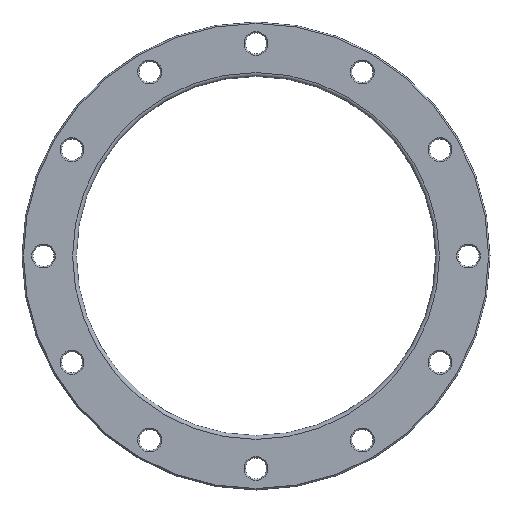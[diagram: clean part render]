
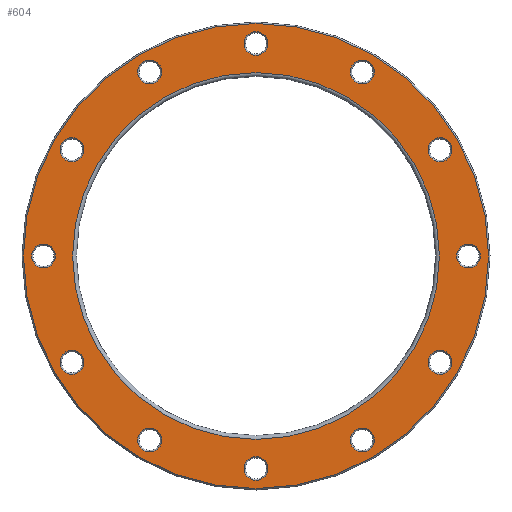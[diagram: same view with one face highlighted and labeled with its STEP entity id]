
A CAD part, front view. The second image highlights one B-rep face of the part: STEP entity #604.
In plain terms, the highlighted planar face has unit normal (0, -1, 0).
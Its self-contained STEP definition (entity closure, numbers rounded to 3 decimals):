
#23=PLANE('',#712);
#134=ORIENTED_EDGE('',*,*,#213,.T.);
#135=ORIENTED_EDGE('',*,*,#214,.T.);
#136=ORIENTED_EDGE('',*,*,#164,.T.);
#137=ORIENTED_EDGE('',*,*,#168,.T.);
#138=ORIENTED_EDGE('',*,*,#172,.T.);
#139=ORIENTED_EDGE('',*,*,#176,.T.);
#140=ORIENTED_EDGE('',*,*,#180,.T.);
#141=ORIENTED_EDGE('',*,*,#184,.T.);
#142=ORIENTED_EDGE('',*,*,#188,.T.);
#143=ORIENTED_EDGE('',*,*,#192,.T.);
#144=ORIENTED_EDGE('',*,*,#196,.T.);
#145=ORIENTED_EDGE('',*,*,#200,.T.);
#146=ORIENTED_EDGE('',*,*,#204,.T.);
#147=ORIENTED_EDGE('',*,*,#215,.T.);
#164=EDGE_CURVE('',#220,#220,#276,.T.);
#168=EDGE_CURVE('',#224,#224,#280,.T.);
#172=EDGE_CURVE('',#228,#228,#284,.T.);
#176=EDGE_CURVE('',#232,#232,#288,.T.);
#180=EDGE_CURVE('',#236,#236,#292,.T.);
#184=EDGE_CURVE('',#240,#240,#296,.T.);
#188=EDGE_CURVE('',#244,#244,#300,.T.);
#192=EDGE_CURVE('',#248,#248,#304,.T.);
#196=EDGE_CURVE('',#252,#252,#308,.T.);
#200=EDGE_CURVE('',#256,#256,#312,.T.);
#204=EDGE_CURVE('',#260,#260,#316,.T.);
#213=EDGE_CURVE('',#269,#269,#325,.F.);
#214=EDGE_CURVE('',#270,#270,#326,.T.);
#215=EDGE_CURVE('',#271,#271,#327,.T.);
#220=VERTEX_POINT('',#935);
#224=VERTEX_POINT('',#946);
#228=VERTEX_POINT('',#957);
#232=VERTEX_POINT('',#968);
#236=VERTEX_POINT('',#979);
#240=VERTEX_POINT('',#990);
#244=VERTEX_POINT('',#1001);
#248=VERTEX_POINT('',#1012);
#252=VERTEX_POINT('',#1023);
#256=VERTEX_POINT('',#1034);
#260=VERTEX_POINT('',#1045);
#269=VERTEX_POINT('',#1068);
#270=VERTEX_POINT('',#1070);
#271=VERTEX_POINT('',#1072);
#276=CIRCLE('',#629,12.5);
#280=CIRCLE('',#636,12.5);
#284=CIRCLE('',#643,12.5);
#288=CIRCLE('',#650,12.5);
#292=CIRCLE('',#657,12.5);
#296=CIRCLE('',#664,12.5);
#300=CIRCLE('',#671,12.5);
#304=CIRCLE('',#678,12.5);
#308=CIRCLE('',#685,12.5);
#312=CIRCLE('',#692,12.5);
#316=CIRCLE('',#699,12.5);
#325=CIRCLE('',#713,243.5);
#326=CIRCLE('',#714,192.);
#327=CIRCLE('',#715,12.5);
#414=EDGE_LOOP('',(#134));
#415=EDGE_LOOP('',(#135));
#416=EDGE_LOOP('',(#136));
#417=EDGE_LOOP('',(#137));
#418=EDGE_LOOP('',(#138));
#419=EDGE_LOOP('',(#139));
#420=EDGE_LOOP('',(#140));
#421=EDGE_LOOP('',(#141));
#422=EDGE_LOOP('',(#142));
#423=EDGE_LOOP('',(#143));
#424=EDGE_LOOP('',(#144));
#425=EDGE_LOOP('',(#145));
#426=EDGE_LOOP('',(#146));
#427=EDGE_LOOP('',(#147));
#526=FACE_BOUND('',#414,.T.);
#527=FACE_BOUND('',#415,.T.);
#528=FACE_BOUND('',#416,.T.);
#529=FACE_BOUND('',#417,.T.);
#530=FACE_BOUND('',#418,.T.);
#531=FACE_BOUND('',#419,.T.);
#532=FACE_BOUND('',#420,.T.);
#533=FACE_BOUND('',#421,.T.);
#534=FACE_BOUND('',#422,.T.);
#535=FACE_BOUND('',#423,.T.);
#536=FACE_BOUND('',#424,.T.);
#537=FACE_BOUND('',#425,.T.);
#538=FACE_BOUND('',#426,.T.);
#539=FACE_BOUND('',#427,.T.);
#604=ADVANCED_FACE('',(#526,#527,#528,#529,#530,#531,#532,#533,#534,#535,
#536,#537,#538,#539),#23,.F.);
#629=AXIS2_PLACEMENT_3D('',#934,#735,#736);
#636=AXIS2_PLACEMENT_3D('',#945,#749,#750);
#643=AXIS2_PLACEMENT_3D('',#956,#763,#764);
#650=AXIS2_PLACEMENT_3D('',#967,#777,#778);
#657=AXIS2_PLACEMENT_3D('',#978,#791,#792);
#664=AXIS2_PLACEMENT_3D('',#989,#805,#806);
#671=AXIS2_PLACEMENT_3D('',#1000,#819,#820);
#678=AXIS2_PLACEMENT_3D('',#1011,#833,#834);
#685=AXIS2_PLACEMENT_3D('',#1022,#847,#848);
#692=AXIS2_PLACEMENT_3D('',#1033,#861,#862);
#699=AXIS2_PLACEMENT_3D('',#1044,#875,#876);
#712=AXIS2_PLACEMENT_3D('',#1066,#901,#902);
#713=AXIS2_PLACEMENT_3D('',#1067,#903,#904);
#714=AXIS2_PLACEMENT_3D('',#1069,#905,#906);
#715=AXIS2_PLACEMENT_3D('',#1071,#907,#908);
#735=DIRECTION('',(0.,1.,0.));
#736=DIRECTION('',(0.866,0.,0.5));
#749=DIRECTION('',(0.,1.,0.));
#750=DIRECTION('',(0.5,0.,0.866));
#763=DIRECTION('',(0.,1.,0.));
#764=DIRECTION('',(0.,0.,1.));
#777=DIRECTION('',(0.,1.,0.));
#778=DIRECTION('',(-0.5,0.,0.866));
#791=DIRECTION('',(0.,1.,0.));
#792=DIRECTION('',(-0.866,0.,0.5));
#805=DIRECTION('',(0.,1.,0.));
#806=DIRECTION('',(-1.,0.,0.));
#819=DIRECTION('',(0.,1.,0.));
#820=DIRECTION('',(-0.866,0.,-0.5));
#833=DIRECTION('',(0.,1.,0.));
#834=DIRECTION('',(-0.5,0.,-0.866));
#847=DIRECTION('',(0.,1.,0.));
#848=DIRECTION('',(0.,0.,-1.));
#861=DIRECTION('',(0.,1.,0.));
#862=DIRECTION('',(0.5,0.,-0.866));
#875=DIRECTION('',(0.,1.,0.));
#876=DIRECTION('',(0.866,0.,-0.5));
#901=DIRECTION('',(0.,1.,0.));
#902=DIRECTION('',(0.,0.,1.));
#903=DIRECTION('',(0.,1.,0.));
#904=DIRECTION('',(0.,0.,1.));
#905=DIRECTION('',(0.,1.,0.));
#906=DIRECTION('',(0.,0.,1.));
#907=DIRECTION('',(0.,1.,0.));
#908=DIRECTION('',(1.,0.,0.));
#934=CARTESIAN_POINT('',(-111.25,0.,192.691));
#935=CARTESIAN_POINT('',(-100.425,0.,198.941));
#945=CARTESIAN_POINT('',(-192.691,0.,111.25));
#946=CARTESIAN_POINT('',(-186.441,0.,122.075));
#956=CARTESIAN_POINT('',(-222.5,0.,0.));
#957=CARTESIAN_POINT('',(-222.5,0.,12.5));
#967=CARTESIAN_POINT('',(-192.691,0.,-111.25));
#968=CARTESIAN_POINT('',(-198.941,0.,-100.425));
#978=CARTESIAN_POINT('',(-111.25,0.,-192.691));
#979=CARTESIAN_POINT('',(-122.075,0.,-186.441));
#989=CARTESIAN_POINT('',(0.,0.,-222.5));
#990=CARTESIAN_POINT('',(-12.5,0.,-222.5));
#1000=CARTESIAN_POINT('',(111.25,0.,-192.691));
#1001=CARTESIAN_POINT('',(100.425,0.,-198.941));
#1011=CARTESIAN_POINT('',(192.691,0.,-111.25));
#1012=CARTESIAN_POINT('',(186.441,0.,-122.075));
#1022=CARTESIAN_POINT('',(222.5,0.,0.));
#1023=CARTESIAN_POINT('',(222.5,0.,-12.5));
#1033=CARTESIAN_POINT('',(192.691,0.,111.25));
#1034=CARTESIAN_POINT('',(198.941,0.,100.425));
#1044=CARTESIAN_POINT('',(111.25,0.,192.691));
#1045=CARTESIAN_POINT('',(122.075,0.,186.441));
#1066=CARTESIAN_POINT('',(0.,0.,0.));
#1067=CARTESIAN_POINT('',(0.,0.,0.));
#1068=CARTESIAN_POINT('',(0.,0.,243.5));
#1069=CARTESIAN_POINT('',(0.,0.,0.));
#1070=CARTESIAN_POINT('',(0.,0.,192.));
#1071=CARTESIAN_POINT('',(0.,0.,222.5));
#1072=CARTESIAN_POINT('',(12.5,0.,222.5));
